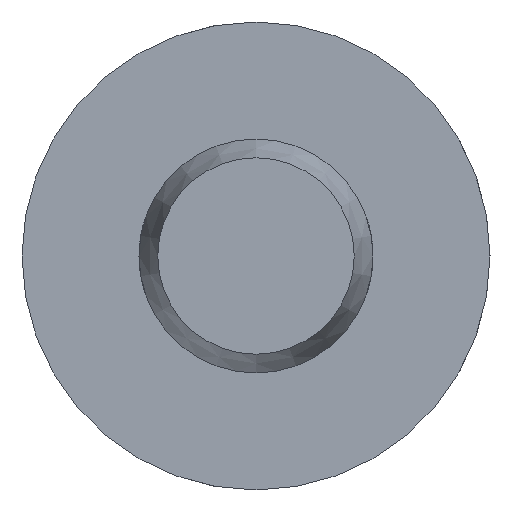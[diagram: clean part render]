
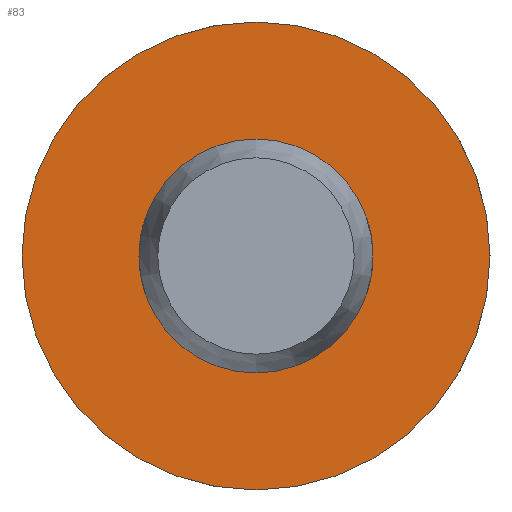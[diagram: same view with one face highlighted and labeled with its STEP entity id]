
A CAD part, left-side view. The second image highlights one B-rep face of the part: STEP entity #83.
In plain terms, the highlighted planar face has unit normal (-1, 0, 0).
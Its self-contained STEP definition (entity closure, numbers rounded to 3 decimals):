
#83 = ADVANCED_FACE( '', ( #129, #130 ), #131, .F. );
#129 = FACE_OUTER_BOUND( '', #208, .T. );
#130 = FACE_BOUND( '', #209, .T. );
#131 = PLANE( '', #210 );
#208 = EDGE_LOOP( '', ( #325 ) );
#209 = EDGE_LOOP( '', ( #326 ) );
#210 = AXIS2_PLACEMENT_3D( '', #327, #328, #329 );
#325 = ORIENTED_EDGE( '', *, *, #493, .F. );
#326 = ORIENTED_EDGE( '', *, *, #483, .T. );
#327 = CARTESIAN_POINT( '', ( 41., 2.5, 0. ) );
#328 = DIRECTION( '', ( 1., 0., 0. ) );
#329 = DIRECTION( '', ( 0., 0., -1. ) );
#483 = EDGE_CURVE( '', #554, #554, #555, .T. );
#493 = EDGE_CURVE( '', #572, #572, #573, .T. );
#554 = VERTEX_POINT( '', #741 );
#555 = CIRCLE( '', #742, 2.5 );
#572 = VERTEX_POINT( '', #842 );
#573 = CIRCLE( '', #843, 5. );
#741 = CARTESIAN_POINT( '', ( 41., 0., -2.5 ) );
#742 = AXIS2_PLACEMENT_3D( '', #906, #907, #908 );
#842 = CARTESIAN_POINT( '', ( 41., 0., -5. ) );
#843 = AXIS2_PLACEMENT_3D( '', #927, #928, #929 );
#906 = CARTESIAN_POINT( '', ( 41., 0., 0. ) );
#907 = DIRECTION( '', ( 1., 0., 0. ) );
#908 = DIRECTION( '', ( 0., 0., -1. ) );
#927 = CARTESIAN_POINT( '', ( 41., 0., 0. ) );
#928 = DIRECTION( '', ( 1., 0., 0. ) );
#929 = DIRECTION( '', ( 0., 0., -1. ) );
